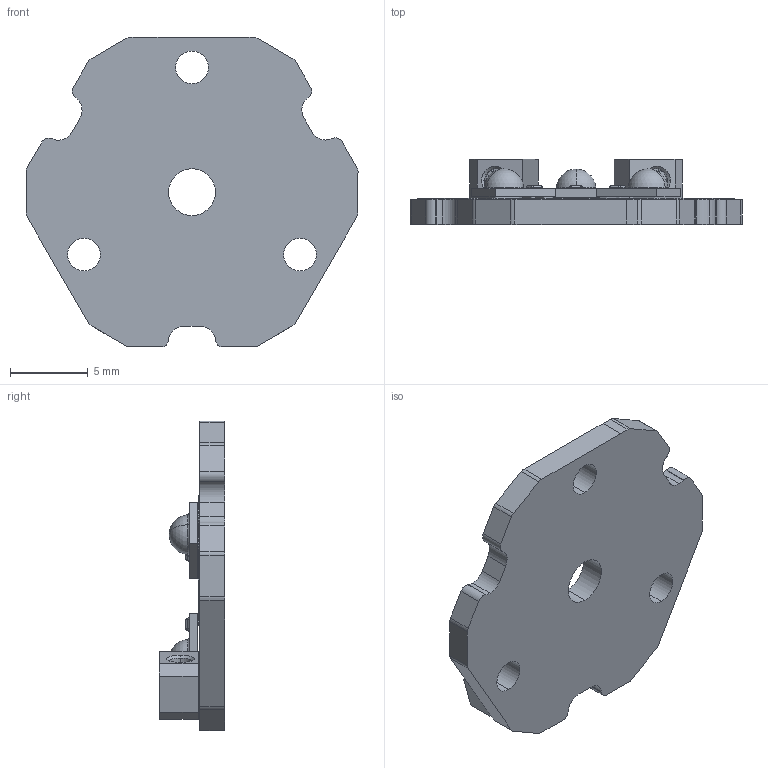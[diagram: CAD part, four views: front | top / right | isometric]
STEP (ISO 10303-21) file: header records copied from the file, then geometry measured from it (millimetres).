
FILE_DESCRIPTION (( 'STEP AP214' ), '1' );
FILE_NAME ('SW-13.STEP', '2023-11-14T03:41:26', ( '' ), ( '' ), 'SwSTEP 2.0', 'SolidWorks 2021', '' );
FILE_SCHEMA (( 'AUTOMOTIVE_DESIGN' ));
Length unit declared in the file: millimetre
Products named in the file (1): SW-13
Bounding box: 21.29 x 4.18 x 19.87 mm (x, y, z)
Volume: 570.3 mm3; surface area: 1124.5 mm2
Topology: 8 solids, 8 shells, 950 faces, 2510 edges, 1633 vertices
Faces by surface type: plane 580, cylinder 207, bspline 119, torus 18, sphere 18, cone 8
Entity records: 41654 total; most frequent: CARTESIAN_POINT 11091, ORIENTED_EDGE 4978, DIRECTION 4370, EDGE_CURVE 2489, VECTOR 1796, LINE 1796, VERTEX_POINT 1630, AXIS2_PLACEMENT_3D 1287
